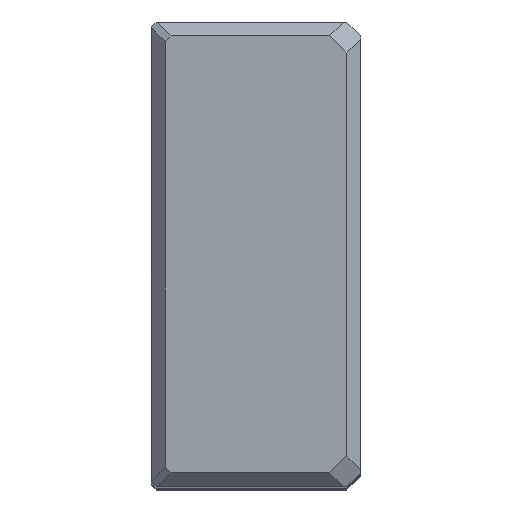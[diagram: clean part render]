
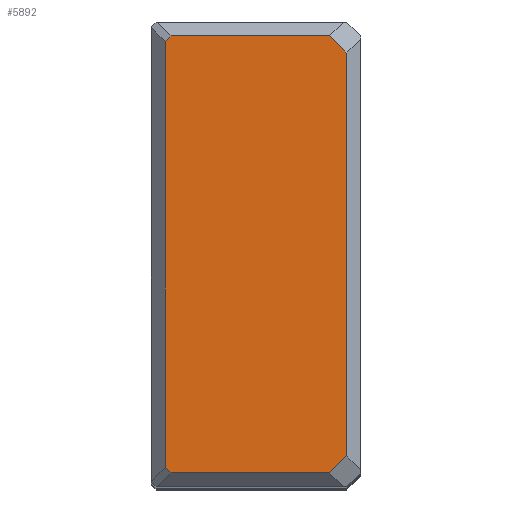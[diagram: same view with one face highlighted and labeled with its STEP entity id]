
A CAD part, top view. The second image highlights one B-rep face of the part: STEP entity #5892.
In plain terms, the highlighted planar face has unit normal (0, 0, 1).
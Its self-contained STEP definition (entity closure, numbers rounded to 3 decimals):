
#130=VERTEX_POINT(' ',#131);
#131=CARTESIAN_POINT('',(-3.,-43.326,0.));
#132=VERTEX_POINT(' ',#133);
#133=CARTESIAN_POINT('',(-6.674,-47.,0.));
#162=VERTEX_POINT(' ',#163);
#163=CARTESIAN_POINT('',(-3.,43.326,0.));
#170=VERTEX_POINT(' ',#171);
#171=CARTESIAN_POINT('',(-6.674,47.,0.));
#196=VERTEX_POINT(' ',#197);
#197=CARTESIAN_POINT('',(-40.775,-47.,0.));
#204=VERTEX_POINT(' ',#205);
#205=CARTESIAN_POINT('',(-42.,-45.775,0.));
#224=VERTEX_POINT(' ',#225);
#225=CARTESIAN_POINT('',(-42.,45.775,0.));
#228=VERTEX_POINT(' ',#229);
#229=CARTESIAN_POINT('',(-40.775,47.,0.));
#1255=LINE('',#1256,#1257);
#1256=CARTESIAN_POINT('',(20.163,-20.163,0.));
#1257=VECTOR('',#1258,1.);
#1258=DIRECTION('',(0.707,0.707,0.));
#1259=EDGE_CURVE(' ',#130,#132,#1255,.F.);
#1385=LINE('',#1386,#1387);
#1386=CARTESIAN_POINT('',(-3.,-50.12,0.));
#1387=VECTOR('',#1388,1.);
#1388=DIRECTION('',(0.,1.,0.));
#1389=EDGE_CURVE(' ',#130,#162,#1385,.T.);
#1410=LINE('',#1411,#1412);
#1411=CARTESIAN_POINT('',(20.163,20.163,0.));
#1412=VECTOR('',#1413,1.);
#1413=DIRECTION('',(-0.707,0.707,0.));
#1414=EDGE_CURVE(' ',#170,#162,#1410,.F.);
#1555=LINE('',#1556,#1557);
#1556=CARTESIAN_POINT('',(-45.12,-47.,0.));
#1557=VECTOR('',#1558,1.);
#1558=DIRECTION('',(1.,0.,0.));
#1559=EDGE_CURVE(' ',#196,#132,#1555,.T.);
#1570=LINE('',#1571,#1572);
#1571=CARTESIAN_POINT('',(-43.888,-43.888,0.));
#1572=VECTOR('',#1573,1.);
#1573=DIRECTION('',(0.707,-0.707,0.));
#1574=EDGE_CURVE(' ',#196,#204,#1570,.F.);
#1667=LINE('',#1668,#1669);
#1668=CARTESIAN_POINT('',(-42.,-50.12,0.));
#1669=VECTOR('',#1670,1.);
#1670=DIRECTION('',(0.,1.,0.));
#1671=EDGE_CURVE(' ',#204,#224,#1667,.T.);
#1672=LINE('',#1673,#1674);
#1673=CARTESIAN_POINT('',(-43.888,43.888,0.));
#1674=VECTOR('',#1675,1.);
#1675=DIRECTION('',(-0.707,-0.707,0.));
#1676=EDGE_CURVE(' ',#224,#228,#1672,.F.);
#1677=LINE('',#1678,#1679);
#1678=CARTESIAN_POINT('',(-45.12,47.,0.));
#1679=VECTOR('',#1680,1.);
#1680=DIRECTION('',(1.,0.,0.));
#1681=EDGE_CURVE(' ',#170,#228,#1677,.F.);
#5877=ORIENTED_EDGE('',*,*,#1676,.F.);
#5878=ORIENTED_EDGE('',*,*,#1671,.F.);
#5879=ORIENTED_EDGE('',*,*,#1574,.F.);
#5880=ORIENTED_EDGE('',*,*,#1559,.T.);
#5881=ORIENTED_EDGE('',*,*,#1259,.F.);
#5882=ORIENTED_EDGE('',*,*,#1389,.T.);
#5883=ORIENTED_EDGE('',*,*,#1414,.F.);
#5884=ORIENTED_EDGE('',*,*,#1681,.T.);
#5885=EDGE_LOOP('',(#5877,#5878,#5879,#5880,#5881,#5882,#5883,#5884));
#5886=FACE_OUTER_BOUND('',#5885,.T.);
#5887=PLANE('',#5888);
#5888=AXIS2_PLACEMENT_3D('',#5889,#5890,#5891);
#5889=CARTESIAN_POINT('',(-42.,0.,0.));
#5890=DIRECTION('',(0.,0.,1.));
#5891=DIRECTION('',(1.,0.,0.));
#5892=ADVANCED_FACE('',(#5886),#5887,.T.);
